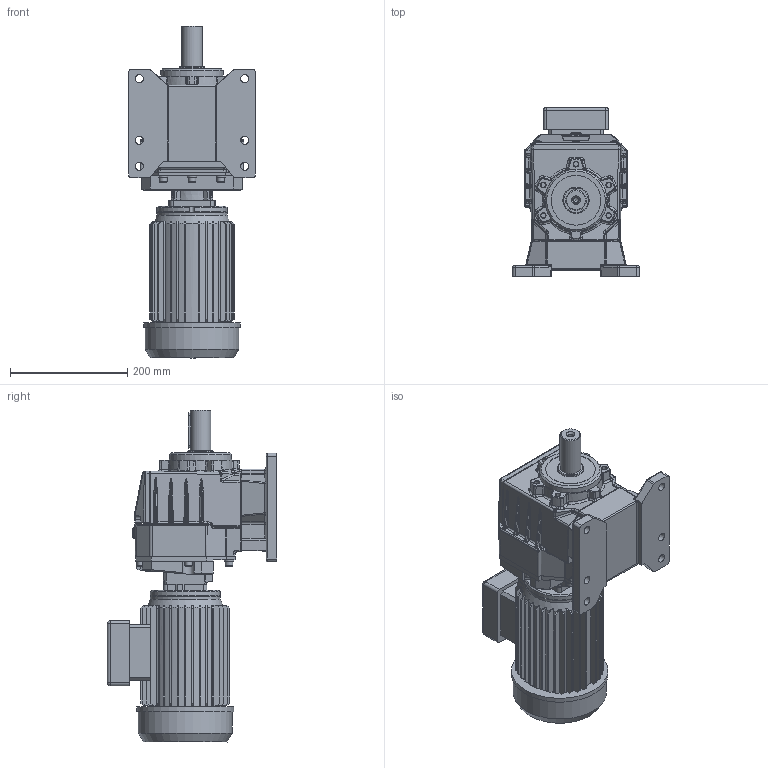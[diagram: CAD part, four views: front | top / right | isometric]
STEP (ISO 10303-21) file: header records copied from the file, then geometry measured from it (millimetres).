
FILE_DESCRIPTION( ( 'Unknown' ), '1' );
FILE_NAME( 'E:/services/configuratordownloads/customers/HYDROMEC/COASSIALI/download/4A6DE0C42FA0E0A9C77C115715F68544/STEP/4A6DE0C42FA0E0A9C77C115715F68544.3d.stp', 'Unknown', ( 'Unknown' ), ( 'Unknown' ), 'PSStep 10.1', 'Unknown', ' ' );
FILE_SCHEMA( ( 'AUTOMOTIVE_DESIGN { 1 0 10303 214 1 1 1 1 }' ) );
Length unit declared in the file: millimetre
Products named in the file (1): C618800
Bounding box: 216 x 289.05 x 567 mm (x, y, z)
Volume: 10958394.9 mm3; surface area: 623417.5 mm2
Topology: 1 solids, 34 shells, 1689 faces, 4179 edges, 2619 vertices
Faces by surface type: plane 864, cylinder 419, bspline 212, cone 110, torus 54, sphere 26, extrusion 4
Full cylindrical faces by diameter (mm): 6 x6, 6.5 x1, 6.647 x4, 6.8 x8, 7 x3, 7.175 x6, 8.376 x6, 8.5 x8, 10 x6, 10.106 x4, 10.5 x1, 11.3 x1, 11.445 x2, 12.75 x8, 13 x7, 13.5 x1, 14 x6, 18 x1, 19 x1, 22 x1, 35 x2, 45 x1, 47 x2, 80 x1, 85 x1, 106 x1, 120 x1, 130.261 x1, 160 x1, 165 x1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
Entity records: 74590 total; most frequent: CARTESIAN_POINT 23532, ORIENTED_EDGE 7842, DIRECTION 7265, EDGE_CURVE 3921, VERTEX_POINT 2545, AXIS2_PLACEMENT_3D 2529, VECTOR 2207, LINE 2203
